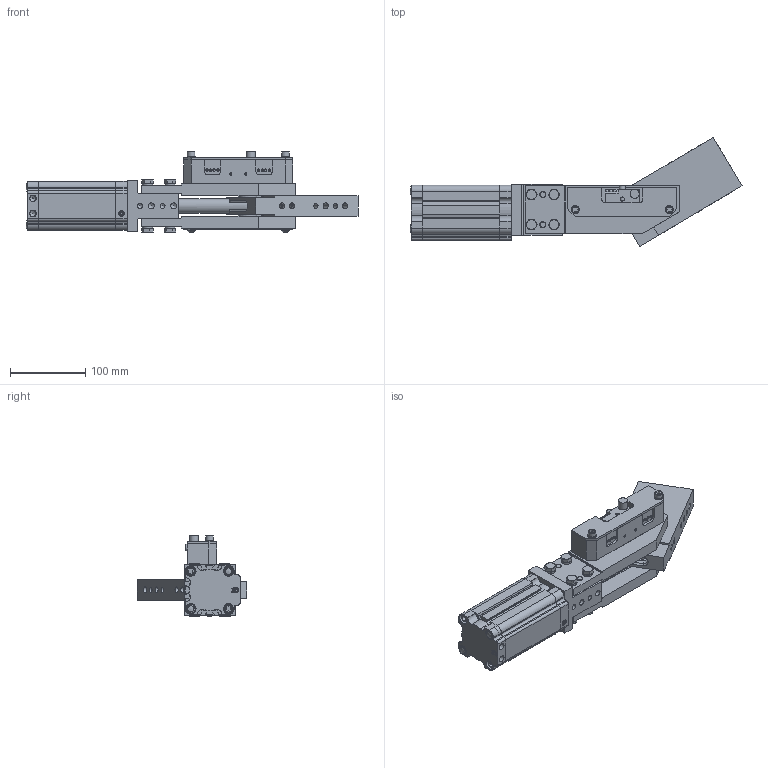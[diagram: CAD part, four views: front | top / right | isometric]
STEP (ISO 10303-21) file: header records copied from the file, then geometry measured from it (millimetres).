
FILE_DESCRIPTION(/* description */ ('PART EJECTOR'),/* implementation_level */ '2;1');
FILE_NAME(/* name */ 'C:\Users\rcarver\Desktop\MPE\MPE030A300AAR2A000-EXTENDED.stp',/* time_stamp */ '2016-05-25T10:37:04-04:00',/* author */ ('rcarver'),/* organization */ (''),/* preprocessor_version */ 'ST-DEVELOPER v16.5',/* originating_system */ 'Autodesk Inventor 2017',/* authorisation */ '');
FILE_SCHEMA (('AUTOMOTIVE_DESIGN { 1 0 10303 214 3 1 1 }'));
Products named in the file (48): MPE30L01; WCW2148E02-075; MPE30E03N; MPE30E03G; MPE30E09; MPE30E06; MPE30E07; MPE30E08; MPE30E12; WCW2148E04; WCW2148E01; FEF-405-1; GSI-1214-16; M8X1.25-25 HEX; NL8; MPE30E16; 0.500-20 HEXJAMNUT; 0.062-27 NPT PLUG; PLH005A; MA1500x2.00DIA; MC0750X1000-125N; OR-032-RADIAL; OR-011-FACE; TSP-326BN70; TSR-075BN70; TSI-1214-06; M5X0.8-120 SHCS; 0.500X1.000 DOWEL; NL5SP; M6X1-135 SHCS; 0.50ID-SAE; MOR-2.0X016.0bn70; 8mmX20 ; MPE30E14; SH-50; MPE30E15; M6X1-10 BHCS; MPE30E10; MPE30E11; SEE SWITCH CHART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
Assembly tree (88 placements, depth 2):
  MPE30L01
    WCW2148E02-075
    MPE30E03N
    MPE30E03G
    MPE30E09
    MPE30E06  x2
    MPE30E07
    MPE30E08
    MPE30E12
    WCW2148E04
    WCW2148E01
    FEF-405-1  x2
    GSI-1214-16  x2
    M8X1.25-25 HEX  x8
    NL8  x8
    MPE30E16  x4
    0.500-20 HEXJAMNUT
    0.062-27 NPT PLUG
    PLH005A  x2
    MA1500x2.00DIA
    MC0750X1000-125N  x2
    OR-032-RADIAL  x2
    OR-011-FACE  x2
    TSP-326BN70
    TSR-075BN70
    TSI-1214-06
    M5X0.8-120 SHCS  x2
    0.500X1.000 DOWEL
    NL5SP  x2
    M6X1-135 SHCS  x2
    NL6  x4
    0.50ID-SAE
    MOR-2.0X016.0bn70
    8mmX20   x2
    MPE30E14  x2
    SH-50  x4
    MPE30E15
    M6X1-10 BHCS  x2
    MPE30E10
    MPE30E11
    SEE SWITCH CHART
    PIN  x4
    S01
    S02
    MPE30E13
    M5X0.8-25 SHCS
    M6X1-50 SHCS  x2
    90692A694  x2
Bounding box: 440.59 x 145.13 x 107.43 mm (x, y, z)
Volume: 1358199.2 mm3; surface area: 431283.2 mm2
Topology: 88 solids, 168 shells, 1660 faces, 4099 edges, 2816 vertices
Faces by surface type: plane 803, cylinder 497, cone 175, bspline 157, torus 21, sphere 7
Full cylindrical faces by diameter (mm): 0.01 x1, 1.191 x4, 2 x2, 2.01 x2, 2.4 x8, 3 x2, 3.175 x12, 3.2 x4, 4.134 x3, 4.75 x2, 4.917 x12, 4.978 x4, 5 x3, 5.4 x2, 5.5 x4, 5.944 x1, 6 x9, 6.35 x1, 6.5 x20, 6.647 x14, 7.5 x4, 7.95 x2, 8 x29, 8.05 x2, 8.5 x13, 8.7 x8, 10 x4, 10.5 x2, 10.8 x4, 10.9 x2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
Entity records: 38448 total; most frequent: CARTESIAN_POINT 8662, DIRECTION 5634, ORIENTED_EDGE 5292, EDGE_CURVE 2694, AXIS2_PLACEMENT_3D 2082, VERTEX_POINT 1982, EDGE_LOOP 1852, LINE 1470
